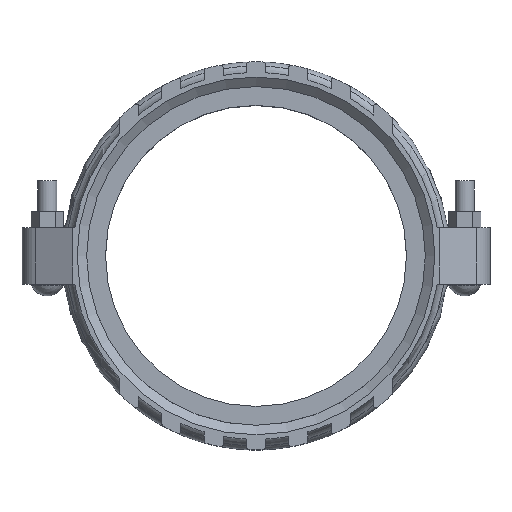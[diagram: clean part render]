
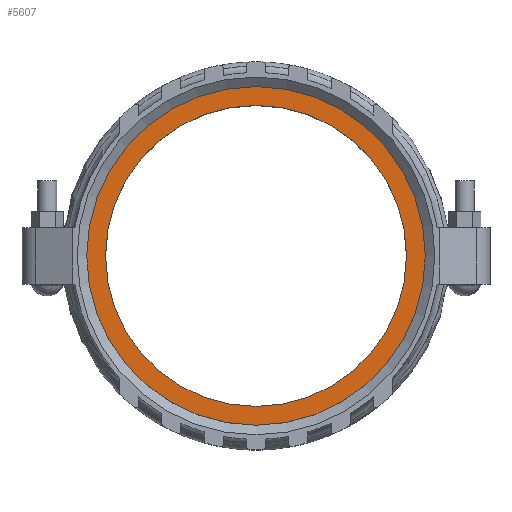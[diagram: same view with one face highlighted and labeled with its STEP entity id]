
A CAD part, top view. The second image highlights one B-rep face of the part: STEP entity #5607.
In plain terms, the highlighted planar face has unit normal (0, 0, 1).
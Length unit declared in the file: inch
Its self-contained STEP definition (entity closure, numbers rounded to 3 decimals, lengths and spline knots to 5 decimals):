
#434=FACE_BOUND('',#1012,.T.);
#715=FACE_OUTER_BOUND('',#1011,.T.);
#1011=EDGE_LOOP('',(#4944,#4945));
#1012=EDGE_LOOP('',(#4946,#4947));
#1947=CIRCLE('',#6238,9.);
#1948=CIRCLE('',#6239,9.);
#1951=CIRCLE('',#6244,8.);
#1952=CIRCLE('',#6245,8.);
#2497=VERTEX_POINT('',#11265);
#2498=VERTEX_POINT('',#11267);
#2501=VERTEX_POINT('',#11276);
#2502=VERTEX_POINT('',#11278);
#3311=EDGE_CURVE('',#2497,#2498,#1947,.T.);
#3312=EDGE_CURVE('',#2498,#2497,#1948,.T.);
#3316=EDGE_CURVE('',#2502,#2501,#1951,.T.);
#3317=EDGE_CURVE('',#2501,#2502,#1952,.T.);
#4944=ORIENTED_EDGE('',*,*,#3312,.F.);
#4945=ORIENTED_EDGE('',*,*,#3311,.F.);
#4946=ORIENTED_EDGE('',*,*,#3316,.T.);
#4947=ORIENTED_EDGE('',*,*,#3317,.T.);
#5043=PLANE('',#6246);
#5607=ADVANCED_FACE('',(#715,#434),#5043,.T.);
#6238=AXIS2_PLACEMENT_3D('',#11268,#7692,#7693);
#6239=AXIS2_PLACEMENT_3D('',#11269,#7694,#7695);
#6244=AXIS2_PLACEMENT_3D('',#11279,#7705,#7706);
#6245=AXIS2_PLACEMENT_3D('',#11280,#7707,#7708);
#6246=AXIS2_PLACEMENT_3D('',#11281,#7709,#7710);
#7692=DIRECTION('center_axis',(0.,0.,-1.));
#7693=DIRECTION('ref_axis',(1.,0.,0.));
#7694=DIRECTION('center_axis',(0.,0.,-1.));
#7695=DIRECTION('ref_axis',(1.,0.,0.));
#7705=DIRECTION('center_axis',(0.,0.,-1.));
#7706=DIRECTION('ref_axis',(1.,0.,0.));
#7707=DIRECTION('center_axis',(0.,0.,-1.));
#7708=DIRECTION('ref_axis',(1.,0.,0.));
#7709=DIRECTION('center_axis',(0.,0.,1.));
#7710=DIRECTION('ref_axis',(1.,0.,0.));
#11265=CARTESIAN_POINT('',(0.,-9.,3.));
#11267=CARTESIAN_POINT('',(0.,9.,3.));
#11268=CARTESIAN_POINT('Origin',(0.,0.,3.));
#11269=CARTESIAN_POINT('Origin',(0.,0.,3.));
#11276=CARTESIAN_POINT('',(0.,-8.,3.));
#11278=CARTESIAN_POINT('',(0.,8.,3.));
#11279=CARTESIAN_POINT('Origin',(0.,0.,3.));
#11280=CARTESIAN_POINT('Origin',(0.,0.,3.));
#11281=CARTESIAN_POINT('Origin',(0.,9.,3.));
